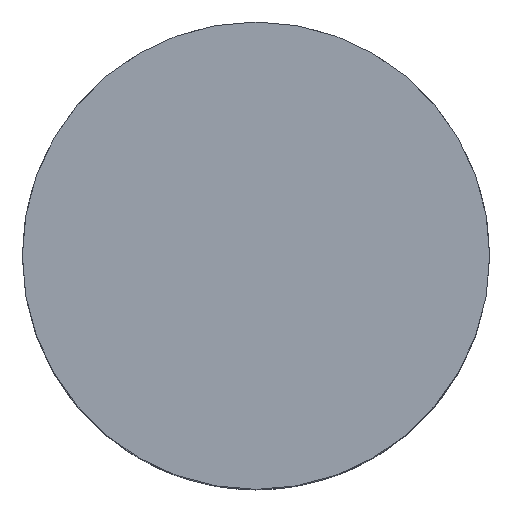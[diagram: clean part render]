
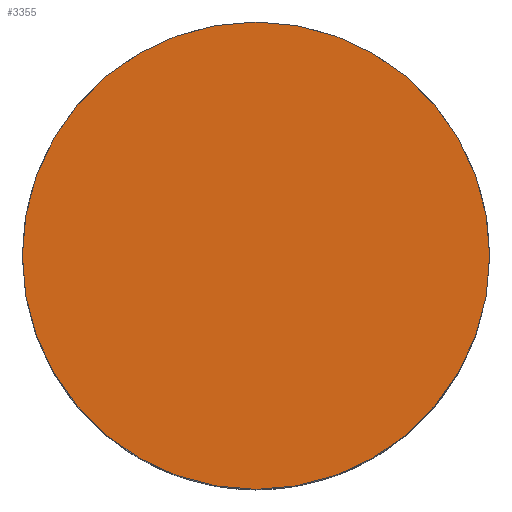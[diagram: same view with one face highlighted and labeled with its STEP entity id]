
A CAD part, top view. The second image highlights one B-rep face of the part: STEP entity #3355.
In plain terms, the highlighted planar face has unit normal (0, 0, 1).
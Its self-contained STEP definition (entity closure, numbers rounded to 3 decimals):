
#3271 = EDGE_CURVE ( 'NONE', #3272, #3273, #10950, .T. ) ;
#3272 = VERTEX_POINT ( 'NONE', #10946 ) ;
#3273 = VERTEX_POINT ( 'NONE', #10945 ) ;
#3351 = EDGE_CURVE ( 'NONE', #3273, #3272, #11114, .T. ) ;
#3355 = ADVANCED_FACE ( 'NONE', ( #11105 ), #11104, .T. ) ;
#3356 = EDGE_LOOP ( 'NONE', ( #3357, #3358 ) ) ;
#3357 = ORIENTED_EDGE ( 'NONE', *, *, #3351, .T. ) ;
#3358 = ORIENTED_EDGE ( 'NONE', *, *, #3271, .T. ) ;
#10945 = CARTESIAN_POINT ( 'NONE',  ( -29.3, 0., 43.2 ) ) ;
#10946 = CARTESIAN_POINT ( 'NONE',  ( 29.3, 0., 43.2 ) ) ;
#10947 = DIRECTION ( 'NONE',  ( 1., 0., 0. ) ) ;
#10948 = DIRECTION ( 'NONE',  ( 0., 0., 1. ) ) ;
#10949 = AXIS2_PLACEMENT_3D ( 'NONE', #10955, #10948, #10947 ) ;
#10950 = CIRCLE ( 'NONE', #10949, 29.3 ) ;
#10955 = CARTESIAN_POINT ( 'NONE',  ( 0., 0., 43.2 ) ) ;
#11100 = DIRECTION ( 'NONE',  ( 1., 0., 0. ) ) ;
#11101 = DIRECTION ( 'NONE',  ( 0., 0., 1. ) ) ;
#11102 = CARTESIAN_POINT ( 'NONE',  ( 0., 0., 43.2 ) ) ;
#11103 = AXIS2_PLACEMENT_3D ( 'NONE', #11102, #11101, #11100 ) ;
#11104 = PLANE ( 'NONE',  #11103 ) ;
#11105 = FACE_OUTER_BOUND ( 'NONE', #3356, .T. ) ;
#11111 = DIRECTION ( 'NONE',  ( 1., 0., 0. ) ) ;
#11112 = DIRECTION ( 'NONE',  ( 0., 0., 1. ) ) ;
#11113 = AXIS2_PLACEMENT_3D ( 'NONE', #11118, #11112, #11111 ) ;
#11114 = CIRCLE ( 'NONE', #11113, 29.3 ) ;
#11118 = CARTESIAN_POINT ( 'NONE',  ( 0., 0., 43.2 ) ) ;
